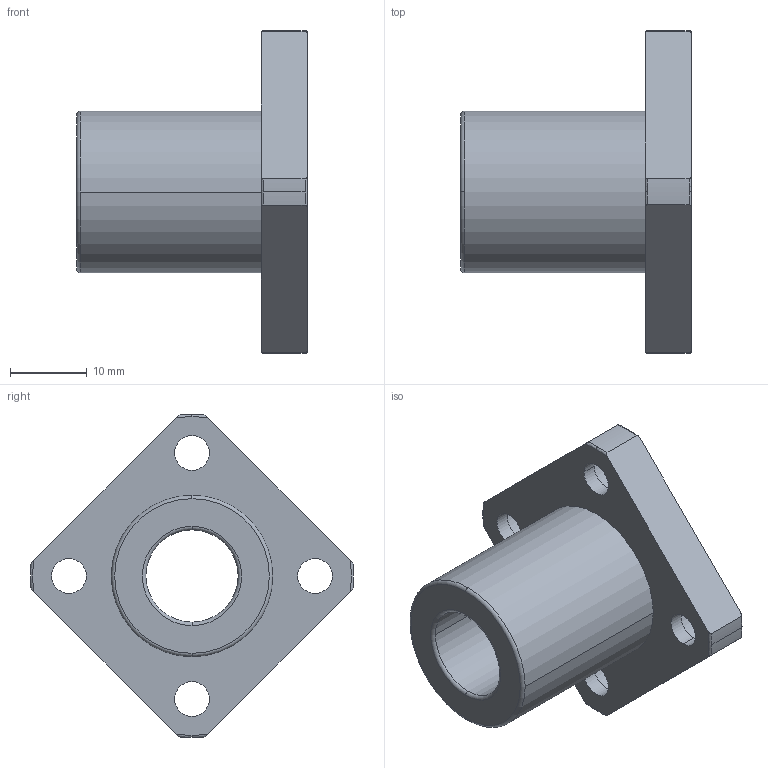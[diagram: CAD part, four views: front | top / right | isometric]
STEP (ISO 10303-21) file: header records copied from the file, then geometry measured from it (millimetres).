
FILE_DESCRIPTION(('FreeCAD Model'),'2;1');
FILE_NAME('Open CASCADE Shape Model','2021-05-03T13:27:41',('Author'),( ''),'Open CASCADE STEP processor 7.5','FreeCAD','Unknown');
FILE_SCHEMA(('AUTOMOTIVE_DESIGN { 1 0 10303 214 1 1 1 1 }'));
Length unit declared in the file: millimetre
Products named in the file (1): linear_lmk12uu
Bounding box: 30 x 42 x 42 mm (x, y, z)
Volume: 10146.3 mm3; surface area: 5584.3 mm2
Topology: 1 solids, 1 shells, 55 faces, 147 edges, 99 vertices
Faces by surface type: cylinder 26, torus 18, plane 11
Entity records: 4837 total; most frequent: CARTESIAN_POINT 1912, DIRECTION 560, ORIENTED_EDGE 294, PCURVE 294, DEFINITIONAL_REPRESENTATION 294, LINE 245, VECTOR 245, AXIS2_PLACEMENT_3D 149
